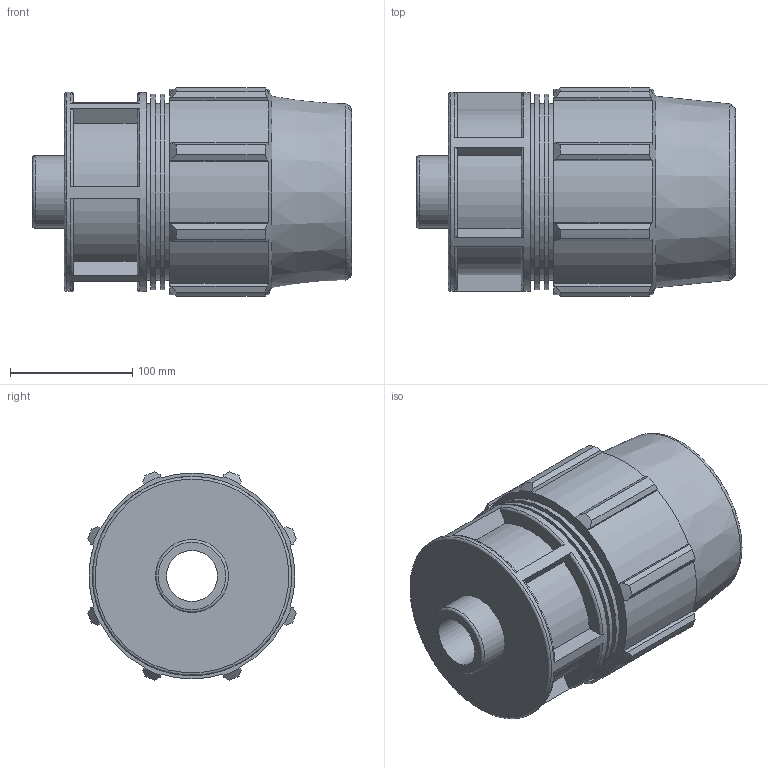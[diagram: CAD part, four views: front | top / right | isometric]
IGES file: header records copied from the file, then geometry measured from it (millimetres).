
Global section: file name: 0702061100200A.ipt; native system: Autodesk Inventor 2015; preprocessor: unknown; author: KIM; date: 20180325.201127; units: millimetre
Bounding box: 261 x 170.31 x 170.31 mm (x, y, z)
Volume: 2456036.1 mm3; surface area: 284551.6 mm2
Topology: 1 solids, 1 shells, 125 faces, 333 edges, 224 vertices
Faces by surface type: plane 67, cylinder 29, revolution 19, cone 10
Full cylindrical faces by diameter (mm): 59.614 x1, 144.8 x3, 159.642 x2, 162.9 x1
